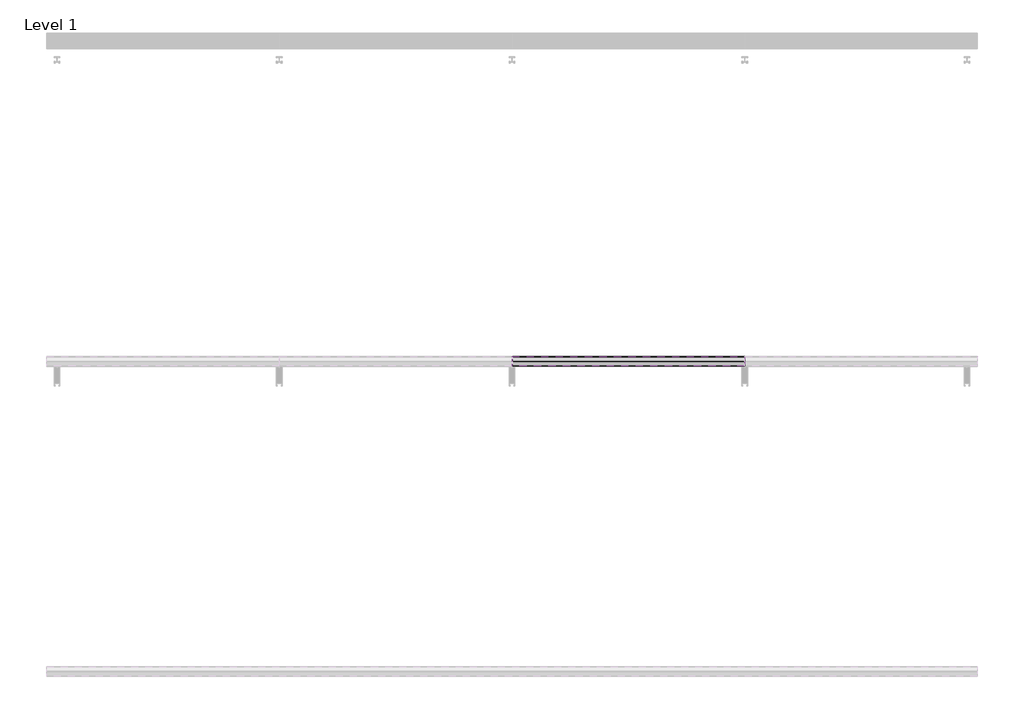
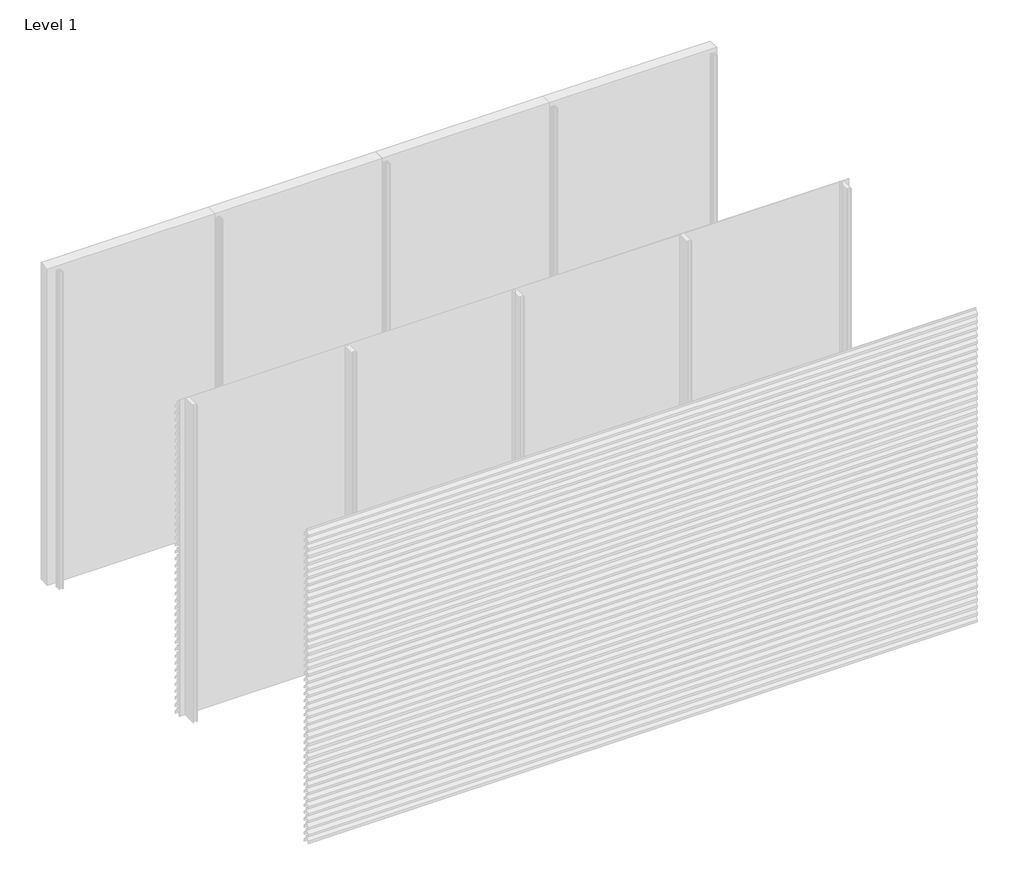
# One storey, part 8 of 35: 70 proxies.
"""IFC4 building model written with IfcOpenShell, lengths in millimetres."""

from ifc_helpers import new_model, si_unit, frame, origin, place, context, project, spatial, polyline, outline, extrude, element, save

model = new_model("IFC4")

# Units and contexts
model_context = context("Model", 3, world=origin())
ifc_project = project(units=[si_unit("LENGTHUNIT", "METRE", prefix="MILLI")], contexts=[model_context])

# Site, building, storey
site = spatial("IfcSite", under=ifc_project)
building = spatial("IfcBuilding", under=site)
storey = spatial("IfcBuildingStorey", under=building, Name="Level 1", Elevation=0.0)

# Proxies
placement = place(None, origin())
element("IfcBuildingElementProxy", 1, Name="Wall Sweeps", at=placement, inside=storey, context=model_context, shape_type="SweptSolid", body=[
    extrude(outline(polyline([(-47936.0, 474.0), (-47936.0, 454.0), (-47937.25, 454.0), (-47937.25, 473.4342979), (-47968.1138939, 506.531772), (-47996.7, 486.4392868), (-47996.7, 467.6629874), (-47998.0, 466.8506572), (-47998.0, 487.1145472), (-47968.537525, 507.823011), (-47968.537525, 528.0), (-47967.1772624, 528.0), (-47967.1772624, 507.4335207), (-47936.0, 474.0)])), frame((1500.0, 0.0, 0.0), z_axis=(1.0, 0.0, 0.0), x_axis=(0.0, 1.0, 0.0)), (0.0, 0.0, 1.0), 1500.0),
])
element("IfcBuildingElementProxy", 2, Name="Wall Sweeps", at=placement, inside=storey, context=model_context, shape_type="SweptSolid", body=[
    extrude(outline(polyline([(-47936.0, 408.0), (-47936.0, 388.0), (-47937.25, 388.0), (-47937.25, 407.4342979), (-47968.1138939, 440.531772), (-47996.7, 420.4392868), (-47996.7, 401.6629874), (-47998.0, 400.8506572), (-47998.0, 421.1145472), (-47968.537525, 441.823011), (-47968.537525, 462.0), (-47967.1772624, 462.0), (-47967.1772624, 441.4335207), (-47936.0, 408.0)])), frame((1500.0, 0.0, 0.0), z_axis=(1.0, 0.0, 0.0), x_axis=(0.0, 1.0, 0.0)), (0.0, 0.0, 1.0), 1500.0),
])
element("IfcBuildingElementProxy", 3, Name="Wall Sweeps", at=placement, inside=storey, context=model_context, shape_type="SweptSolid", body=[
    extrude(outline(polyline([(-47936.0, 342.0), (-47936.0, 322.0), (-47937.25, 322.0), (-47937.25, 341.4342979), (-47968.1138939, 374.531772), (-47996.7, 354.4392868), (-47996.7, 335.6629874), (-47998.0, 334.8506572), (-47998.0, 355.1145472), (-47968.537525, 375.823011), (-47968.537525, 396.0), (-47967.1772624, 396.0), (-47967.1772624, 375.4335207), (-47936.0, 342.0)])), frame((1500.0, 0.0, 0.0), z_axis=(1.0, 0.0, 0.0), x_axis=(0.0, 1.0, 0.0)), (0.0, 0.0, 1.0), 1500.0),
])
element("IfcBuildingElementProxy", 4, Name="Wall Sweeps", at=placement, inside=storey, context=model_context, shape_type="SweptSolid", body=[
    extrude(outline(polyline([(-47936.0, 276.0), (-47936.0, 256.0), (-47937.25, 256.0), (-47937.25, 275.4342979), (-47968.1138939, 308.531772), (-47996.7, 288.4392868), (-47996.7, 269.6629874), (-47998.0, 268.8506572), (-47998.0, 289.1145472), (-47968.537525, 309.823011), (-47968.537525, 330.0), (-47967.1772624, 330.0), (-47967.1772624, 309.4335207), (-47936.0, 276.0)])), frame((1500.0, 0.0, 0.0), z_axis=(1.0, 0.0, 0.0), x_axis=(0.0, 1.0, 0.0)), (0.0, 0.0, 1.0), 1500.0),
])
element("IfcBuildingElementProxy", 5, Name="Wall Sweeps", at=placement, inside=storey, context=model_context, shape_type="SweptSolid", body=[
    extrude(outline(polyline([(-47936.0, 210.0), (-47936.0, 190.0), (-47937.25, 190.0), (-47937.25, 209.4342979), (-47968.1138939, 242.531772), (-47996.7, 222.4392868), (-47996.7, 203.6629874), (-47998.0, 202.8506572), (-47998.0, 223.1145472), (-47968.537525, 243.823011), (-47968.537525, 264.0), (-47967.1772624, 264.0), (-47967.1772624, 243.4335207), (-47936.0, 210.0)])), frame((1500.0, 0.0, 0.0), z_axis=(1.0, 0.0, 0.0), x_axis=(0.0, 1.0, 0.0)), (0.0, 0.0, 1.0), 1500.0),
])
element("IfcBuildingElementProxy", 6, Name="Wall Sweeps", at=placement, inside=storey, context=model_context, shape_type="SweptSolid", body=[
    extrude(outline(polyline([(-47936.0, 144.0), (-47936.0, 124.0), (-47937.25, 124.0), (-47937.25, 143.4342979), (-47968.1138939, 176.531772), (-47996.7, 156.4392868), (-47996.7, 137.6629874), (-47998.0, 136.8506572), (-47998.0, 157.1145472), (-47968.537525, 177.823011), (-47968.537525, 198.0), (-47967.1772624, 198.0), (-47967.1772624, 177.4335207), (-47936.0, 144.0)])), frame((1500.0, 0.0, 0.0), z_axis=(1.0, 0.0, 0.0), x_axis=(0.0, 1.0, 0.0)), (0.0, 0.0, 1.0), 1500.0),
])
element("IfcBuildingElementProxy", 7, Name="Wall Sweeps", at=placement, inside=storey, context=model_context, shape_type="SweptSolid", body=[
    extrude(outline(polyline([(-47936.0, 78.0), (-47936.0, 58.0), (-47937.25, 58.0), (-47937.25, 77.4342979), (-47968.1138939, 110.531772), (-47996.7, 90.4392868), (-47996.7, 71.6629874), (-47998.0, 70.8506572), (-47998.0, 91.1145472), (-47968.537525, 111.823011), (-47968.537525, 132.0), (-47967.1772624, 132.0), (-47967.1772624, 111.4335207), (-47936.0, 78.0)])), frame((1500.0, 0.0, 0.0), z_axis=(1.0, 0.0, 0.0), x_axis=(0.0, 1.0, 0.0)), (0.0, 0.0, 1.0), 1500.0),
])
element("IfcBuildingElementProxy", 8, Name="Wall Sweeps", at=placement, inside=storey, context=model_context, shape_type="SweptSolid", body=[
    extrude(outline(polyline([(-47936.0, 12.0), (-47936.0, -8.0), (-47937.25, -8.0), (-47937.25, 11.4342979), (-47968.1138939, 44.531772), (-47996.7, 24.4392868), (-47996.7, 5.6629874), (-47998.0, 4.8506572), (-47998.0, 25.1145472), (-47968.537525, 45.823011), (-47968.537525, 66.0), (-47967.1772624, 66.0), (-47967.1772624, 45.4335207), (-47936.0, 12.0)])), frame((1500.0, 0.0, 0.0), z_axis=(1.0, 0.0, 0.0), x_axis=(0.0, 1.0, 0.0)), (0.0, 0.0, 1.0), 1500.0),
])
element("IfcBuildingElementProxy", 9, Name="Wall Sweeps", at=placement, inside=storey, context=model_context, shape_type="SweptSolid", body=[
    extrude(outline(polyline([(-47936.0, 2916.0), (-47936.0, 2896.0), (-47937.25, 2896.0), (-47937.25, 2915.4342979), (-47968.1138939, 2948.531772), (-47996.7, 2928.4392868), (-47996.7, 2909.6629874), (-47998.0, 2908.8506572), (-47998.0, 2929.1145472), (-47968.537525, 2949.823011), (-47968.537525, 2970.0), (-47967.1772624, 2970.0), (-47967.1772624, 2949.4335207), (-47936.0, 2916.0)])), frame((3000.0, 0.0, 0.0), z_axis=(1.0, 0.0, 0.0), x_axis=(0.0, 1.0, 0.0)), (0.0, 0.0, 1.0), 1500.0),
])
element("IfcBuildingElementProxy", 10, Name="Wall Sweeps", at=placement, inside=storey, context=model_context, shape_type="SweptSolid", body=[
    extrude(outline(polyline([(-47936.0, 2850.0), (-47936.0, 2830.0), (-47937.25, 2830.0), (-47937.25, 2849.4342979), (-47968.1138939, 2882.531772), (-47996.7, 2862.4392868), (-47996.7, 2843.6629874), (-47998.0, 2842.8506572), (-47998.0, 2863.1145472), (-47968.537525, 2883.823011), (-47968.537525, 2904.0), (-47967.1772624, 2904.0), (-47967.1772624, 2883.4335207), (-47936.0, 2850.0)])), frame((3000.0, 0.0, 0.0), z_axis=(1.0, 0.0, 0.0), x_axis=(0.0, 1.0, 0.0)), (0.0, 0.0, 1.0), 1500.0),
])
element("IfcBuildingElementProxy", 11, Name="Wall Sweeps", at=placement, inside=storey, context=model_context, shape_type="SweptSolid", body=[
    extrude(outline(polyline([(-47936.0, 2784.0), (-47936.0, 2764.0), (-47937.25, 2764.0), (-47937.25, 2783.4342979), (-47968.1138939, 2816.531772), (-47996.7, 2796.4392868), (-47996.7, 2777.6629874), (-47998.0, 2776.8506572), (-47998.0, 2797.1145472), (-47968.537525, 2817.823011), (-47968.537525, 2838.0), (-47967.1772624, 2838.0), (-47967.1772624, 2817.4335207), (-47936.0, 2784.0)])), frame((3000.0, 0.0, 0.0), z_axis=(1.0, 0.0, 0.0), x_axis=(0.0, 1.0, 0.0)), (0.0, 0.0, 1.0), 1500.0),
])
element("IfcBuildingElementProxy", 12, Name="Wall Sweeps", at=placement, inside=storey, context=model_context, shape_type="SweptSolid", body=[
    extrude(outline(polyline([(-47936.0, 2718.0), (-47936.0, 2698.0), (-47937.25, 2698.0), (-47937.25, 2717.4342979), (-47968.1138939, 2750.531772), (-47996.7, 2730.4392868), (-47996.7, 2711.6629874), (-47998.0, 2710.8506572), (-47998.0, 2731.1145472), (-47968.537525, 2751.823011), (-47968.537525, 2772.0), (-47967.1772624, 2772.0), (-47967.1772624, 2751.4335207), (-47936.0, 2718.0)])), frame((3000.0, 0.0, 0.0), z_axis=(1.0, 0.0, 0.0), x_axis=(0.0, 1.0, 0.0)), (0.0, 0.0, 1.0), 1500.0),
])
element("IfcBuildingElementProxy", 13, Name="Wall Sweeps", at=placement, inside=storey, context=model_context, shape_type="SweptSolid", body=[
    extrude(outline(polyline([(-47936.0, 2652.0), (-47936.0, 2632.0), (-47937.25, 2632.0), (-47937.25, 2651.4342979), (-47968.1138939, 2684.531772), (-47996.7, 2664.4392868), (-47996.7, 2645.6629874), (-47998.0, 2644.8506572), (-47998.0, 2665.1145472), (-47968.537525, 2685.823011), (-47968.537525, 2706.0), (-47967.1772624, 2706.0), (-47967.1772624, 2685.4335207), (-47936.0, 2652.0)])), frame((3000.0, 0.0, 0.0), z_axis=(1.0, 0.0, 0.0), x_axis=(0.0, 1.0, 0.0)), (0.0, 0.0, 1.0), 1500.0),
])
element("IfcBuildingElementProxy", 14, Name="Wall Sweeps", at=placement, inside=storey, context=model_context, shape_type="SweptSolid", body=[
    extrude(outline(polyline([(-47936.0, 2586.0), (-47936.0, 2566.0), (-47937.25, 2566.0), (-47937.25, 2585.4342979), (-47968.1138939, 2618.531772), (-47996.7, 2598.4392868), (-47996.7, 2579.6629874), (-47998.0, 2578.8506572), (-47998.0, 2599.1145472), (-47968.537525, 2619.823011), (-47968.537525, 2640.0), (-47967.1772624, 2640.0), (-47967.1772624, 2619.4335207), (-47936.0, 2586.0)])), frame((3000.0, 0.0, 0.0), z_axis=(1.0, 0.0, 0.0), x_axis=(0.0, 1.0, 0.0)), (0.0, 0.0, 1.0), 1500.0),
])
element("IfcBuildingElementProxy", 15, Name="Wall Sweeps", at=placement, inside=storey, context=model_context, shape_type="SweptSolid", body=[
    extrude(outline(polyline([(-47936.0, 2520.0), (-47936.0, 2500.0), (-47937.25, 2500.0), (-47937.25, 2519.4342979), (-47968.1138939, 2552.531772), (-47996.7, 2532.4392868), (-47996.7, 2513.6629874), (-47998.0, 2512.8506572), (-47998.0, 2533.1145472), (-47968.537525, 2553.823011), (-47968.537525, 2574.0), (-47967.1772624, 2574.0), (-47967.1772624, 2553.4335207), (-47936.0, 2520.0)])), frame((3000.0, 0.0, 0.0), z_axis=(1.0, 0.0, 0.0), x_axis=(0.0, 1.0, 0.0)), (0.0, 0.0, 1.0), 1500.0),
])
element("IfcBuildingElementProxy", 16, Name="Wall Sweeps", at=placement, inside=storey, context=model_context, shape_type="SweptSolid", body=[
    extrude(outline(polyline([(-47936.0, 2454.0), (-47936.0, 2434.0), (-47937.25, 2434.0), (-47937.25, 2453.4342979), (-47968.1138939, 2486.531772), (-47996.7, 2466.4392868), (-47996.7, 2447.6629874), (-47998.0, 2446.8506572), (-47998.0, 2467.1145472), (-47968.537525, 2487.823011), (-47968.537525, 2508.0), (-47967.1772624, 2508.0), (-47967.1772624, 2487.4335207), (-47936.0, 2454.0)])), frame((3000.0, 0.0, 0.0), z_axis=(1.0, 0.0, 0.0), x_axis=(0.0, 1.0, 0.0)), (0.0, 0.0, 1.0), 1500.0),
])
element("IfcBuildingElementProxy", 17, Name="Wall Sweeps", at=placement, inside=storey, context=model_context, shape_type="SweptSolid", body=[
    extrude(outline(polyline([(-47936.0, 2388.0), (-47936.0, 2368.0), (-47937.25, 2368.0), (-47937.25, 2387.4342979), (-47968.1138939, 2420.531772), (-47996.7, 2400.4392868), (-47996.7, 2381.6629874), (-47998.0, 2380.8506572), (-47998.0, 2401.1145472), (-47968.537525, 2421.823011), (-47968.537525, 2442.0), (-47967.1772624, 2442.0), (-47967.1772624, 2421.4335207), (-47936.0, 2388.0)])), frame((3000.0, 0.0, 0.0), z_axis=(1.0, 0.0, 0.0), x_axis=(0.0, 1.0, 0.0)), (0.0, 0.0, 1.0), 1500.0),
])
element("IfcBuildingElementProxy", 18, Name="Wall Sweeps", at=placement, inside=storey, context=model_context, shape_type="SweptSolid", body=[
    extrude(outline(polyline([(-47936.0, 2322.0), (-47936.0, 2302.0), (-47937.25, 2302.0), (-47937.25, 2321.4342979), (-47968.1138939, 2354.531772), (-47996.7, 2334.4392868), (-47996.7, 2315.6629874), (-47998.0, 2314.8506572), (-47998.0, 2335.1145472), (-47968.537525, 2355.823011), (-47968.537525, 2376.0), (-47967.1772624, 2376.0), (-47967.1772624, 2355.4335207), (-47936.0, 2322.0)])), frame((3000.0, 0.0, 0.0), z_axis=(1.0, 0.0, 0.0), x_axis=(0.0, 1.0, 0.0)), (0.0, 0.0, 1.0), 1500.0),
])
element("IfcBuildingElementProxy", 19, Name="Wall Sweeps", at=placement, inside=storey, context=model_context, shape_type="SweptSolid", body=[
    extrude(outline(polyline([(-47936.0, 2256.0), (-47936.0, 2236.0), (-47937.25, 2236.0), (-47937.25, 2255.4342979), (-47968.1138939, 2288.531772), (-47996.7, 2268.4392868), (-47996.7, 2249.6629874), (-47998.0, 2248.8506572), (-47998.0, 2269.1145472), (-47968.537525, 2289.823011), (-47968.537525, 2310.0), (-47967.1772624, 2310.0), (-47967.1772624, 2289.4335207), (-47936.0, 2256.0)])), frame((3000.0, 0.0, 0.0), z_axis=(1.0, 0.0, 0.0), x_axis=(0.0, 1.0, 0.0)), (0.0, 0.0, 1.0), 1500.0),
])
element("IfcBuildingElementProxy", 20, Name="Wall Sweeps", at=placement, inside=storey, context=model_context, shape_type="SweptSolid", body=[
    extrude(outline(polyline([(-47936.0, 2190.0), (-47936.0, 2170.0), (-47937.25, 2170.0), (-47937.25, 2189.4342979), (-47968.1138939, 2222.531772), (-47996.7, 2202.4392868), (-47996.7, 2183.6629874), (-47998.0, 2182.8506572), (-47998.0, 2203.1145472), (-47968.537525, 2223.823011), (-47968.537525, 2244.0), (-47967.1772624, 2244.0), (-47967.1772624, 2223.4335207), (-47936.0, 2190.0)])), frame((3000.0, 0.0, 0.0), z_axis=(1.0, 0.0, 0.0), x_axis=(0.0, 1.0, 0.0)), (0.0, 0.0, 1.0), 1500.0),
])
element("IfcBuildingElementProxy", 21, Name="Wall Sweeps", at=placement, inside=storey, context=model_context, shape_type="SweptSolid", body=[
    extrude(outline(polyline([(-47936.0, 2124.0), (-47936.0, 2104.0), (-47937.25, 2104.0), (-47937.25, 2123.4342979), (-47968.1138939, 2156.531772), (-47996.7, 2136.4392868), (-47996.7, 2117.6629874), (-47998.0, 2116.8506572), (-47998.0, 2137.1145472), (-47968.537525, 2157.823011), (-47968.537525, 2178.0), (-47967.1772624, 2178.0), (-47967.1772624, 2157.4335207), (-47936.0, 2124.0)])), frame((3000.0, 0.0, 0.0), z_axis=(1.0, 0.0, 0.0), x_axis=(0.0, 1.0, 0.0)), (0.0, 0.0, 1.0), 1500.0),
])
element("IfcBuildingElementProxy", 22, Name="Wall Sweeps", at=placement, inside=storey, context=model_context, shape_type="SweptSolid", body=[
    extrude(outline(polyline([(-47936.0, 2058.0), (-47936.0, 2038.0), (-47937.25, 2038.0), (-47937.25, 2057.4342979), (-47968.1138939, 2090.531772), (-47996.7, 2070.4392868), (-47996.7, 2051.6629874), (-47998.0, 2050.8506572), (-47998.0, 2071.1145472), (-47968.537525, 2091.823011), (-47968.537525, 2112.0), (-47967.1772624, 2112.0), (-47967.1772624, 2091.4335207), (-47936.0, 2058.0)])), frame((3000.0, 0.0, 0.0), z_axis=(1.0, 0.0, 0.0), x_axis=(0.0, 1.0, 0.0)), (0.0, 0.0, 1.0), 1500.0),
])
element("IfcBuildingElementProxy", 23, Name="Wall Sweeps", at=placement, inside=storey, context=model_context, shape_type="SweptSolid", body=[
    extrude(outline(polyline([(-47936.0, 1992.0), (-47936.0, 1972.0), (-47937.25, 1972.0), (-47937.25, 1991.4342979), (-47968.1138939, 2024.531772), (-47996.7, 2004.4392868), (-47996.7, 1985.6629874), (-47998.0, 1984.8506572), (-47998.0, 2005.1145472), (-47968.537525, 2025.823011), (-47968.537525, 2046.0), (-47967.1772624, 2046.0), (-47967.1772624, 2025.4335207), (-47936.0, 1992.0)])), frame((3000.0, 0.0, 0.0), z_axis=(1.0, 0.0, 0.0), x_axis=(0.0, 1.0, 0.0)), (0.0, 0.0, 1.0), 1500.0),
])
element("IfcBuildingElementProxy", 24, Name="Wall Sweeps", at=placement, inside=storey, context=model_context, shape_type="SweptSolid", body=[
    extrude(outline(polyline([(-47936.0, 1926.0), (-47936.0, 1906.0), (-47937.25, 1906.0), (-47937.25, 1925.4342979), (-47968.1138939, 1958.531772), (-47996.7, 1938.4392868), (-47996.7, 1919.6629874), (-47998.0, 1918.8506572), (-47998.0, 1939.1145472), (-47968.537525, 1959.823011), (-47968.537525, 1980.0), (-47967.1772624, 1980.0), (-47967.1772624, 1959.4335207), (-47936.0, 1926.0)])), frame((3000.0, 0.0, 0.0), z_axis=(1.0, 0.0, 0.0), x_axis=(0.0, 1.0, 0.0)), (0.0, 0.0, 1.0), 1500.0),
])
element("IfcBuildingElementProxy", 25, Name="Wall Sweeps", at=placement, inside=storey, context=model_context, shape_type="SweptSolid", body=[
    extrude(outline(polyline([(-47936.0, 1860.0), (-47936.0, 1840.0), (-47937.25, 1840.0), (-47937.25, 1859.4342979), (-47968.1138939, 1892.531772), (-47996.7, 1872.4392868), (-47996.7, 1853.6629874), (-47998.0, 1852.8506572), (-47998.0, 1873.1145472), (-47968.537525, 1893.823011), (-47968.537525, 1914.0), (-47967.1772624, 1914.0), (-47967.1772624, 1893.4335207), (-47936.0, 1860.0)])), frame((3000.0, 0.0, 0.0), z_axis=(1.0, 0.0, 0.0), x_axis=(0.0, 1.0, 0.0)), (0.0, 0.0, 1.0), 1500.0),
])
element("IfcBuildingElementProxy", 26, Name="Wall Sweeps", at=placement, inside=storey, context=model_context, shape_type="SweptSolid", body=[
    extrude(outline(polyline([(-47936.0, 1794.0), (-47936.0, 1774.0), (-47937.25, 1774.0), (-47937.25, 1793.4342979), (-47968.1138939, 1826.531772), (-47996.7, 1806.4392868), (-47996.7, 1787.6629874), (-47998.0, 1786.8506572), (-47998.0, 1807.1145472), (-47968.537525, 1827.823011), (-47968.537525, 1848.0), (-47967.1772624, 1848.0), (-47967.1772624, 1827.4335207), (-47936.0, 1794.0)])), frame((3000.0, 0.0, 0.0), z_axis=(1.0, 0.0, 0.0), x_axis=(0.0, 1.0, 0.0)), (0.0, 0.0, 1.0), 1500.0),
])
element("IfcBuildingElementProxy", 27, Name="Wall Sweeps", at=placement, inside=storey, context=model_context, shape_type="SweptSolid", body=[
    extrude(outline(polyline([(-47936.0, 1728.0), (-47936.0, 1708.0), (-47937.25, 1708.0), (-47937.25, 1727.4342979), (-47968.1138939, 1760.531772), (-47996.7, 1740.4392868), (-47996.7, 1721.6629874), (-47998.0, 1720.8506572), (-47998.0, 1741.1145472), (-47968.537525, 1761.823011), (-47968.537525, 1782.0), (-47967.1772624, 1782.0), (-47967.1772624, 1761.4335207), (-47936.0, 1728.0)])), frame((3000.0, 0.0, 0.0), z_axis=(1.0, 0.0, 0.0), x_axis=(0.0, 1.0, 0.0)), (0.0, 0.0, 1.0), 1500.0),
])
element("IfcBuildingElementProxy", 28, Name="Wall Sweeps", at=placement, inside=storey, context=model_context, shape_type="SweptSolid", body=[
    extrude(outline(polyline([(-47936.0, 1662.0), (-47936.0, 1642.0), (-47937.25, 1642.0), (-47937.25, 1661.4342979), (-47968.1138939, 1694.531772), (-47996.7, 1674.4392868), (-47996.7, 1655.6629874), (-47998.0, 1654.8506572), (-47998.0, 1675.1145472), (-47968.537525, 1695.823011), (-47968.537525, 1716.0), (-47967.1772624, 1716.0), (-47967.1772624, 1695.4335207), (-47936.0, 1662.0)])), frame((3000.0, 0.0, 0.0), z_axis=(1.0, 0.0, 0.0), x_axis=(0.0, 1.0, 0.0)), (0.0, 0.0, 1.0), 1500.0),
])
element("IfcBuildingElementProxy", 29, Name="Wall Sweeps", at=placement, inside=storey, context=model_context, shape_type="SweptSolid", body=[
    extrude(outline(polyline([(-47936.0, 1596.0), (-47936.0, 1576.0), (-47937.25, 1576.0), (-47937.25, 1595.4342979), (-47968.1138939, 1628.531772), (-47996.7, 1608.4392868), (-47996.7, 1589.6629874), (-47998.0, 1588.8506572), (-47998.0, 1609.1145472), (-47968.537525, 1629.823011), (-47968.537525, 1650.0), (-47967.1772624, 1650.0), (-47967.1772624, 1629.4335207), (-47936.0, 1596.0)])), frame((3000.0, 0.0, 0.0), z_axis=(1.0, 0.0, 0.0), x_axis=(0.0, 1.0, 0.0)), (0.0, 0.0, 1.0), 1500.0),
])
element("IfcBuildingElementProxy", 30, Name="Wall Sweeps", at=placement, inside=storey, context=model_context, shape_type="SweptSolid", body=[
    extrude(outline(polyline([(-47936.0, 1530.0), (-47936.0, 1510.0), (-47937.25, 1510.0), (-47937.25, 1529.4342979), (-47968.1138939, 1562.531772), (-47996.7, 1542.4392868), (-47996.7, 1523.6629874), (-47998.0, 1522.8506572), (-47998.0, 1543.1145472), (-47968.537525, 1563.823011), (-47968.537525, 1584.0), (-47967.1772624, 1584.0), (-47967.1772624, 1563.4335207), (-47936.0, 1530.0)])), frame((3000.0, 0.0, 0.0), z_axis=(1.0, 0.0, 0.0), x_axis=(0.0, 1.0, 0.0)), (0.0, 0.0, 1.0), 1500.0),
])
element("IfcBuildingElementProxy", 31, Name="Wall Sweeps", at=placement, inside=storey, context=model_context, shape_type="SweptSolid", body=[
    extrude(outline(polyline([(-47936.0, 1464.0), (-47936.0, 1444.0), (-47937.25, 1444.0), (-47937.25, 1463.4342979), (-47968.1138939, 1496.531772), (-47996.7, 1476.4392868), (-47996.7, 1457.6629874), (-47998.0, 1456.8506572), (-47998.0, 1477.1145472), (-47968.537525, 1497.823011), (-47968.537525, 1518.0), (-47967.1772624, 1518.0), (-47967.1772624, 1497.4335207), (-47936.0, 1464.0)])), frame((3000.0, 0.0, 0.0), z_axis=(1.0, 0.0, 0.0), x_axis=(0.0, 1.0, 0.0)), (0.0, 0.0, 1.0), 1500.0),
])
element("IfcBuildingElementProxy", 32, Name="Wall Sweeps", at=placement, inside=storey, context=model_context, shape_type="SweptSolid", body=[
    extrude(outline(polyline([(-47936.0, 1398.0), (-47936.0, 1378.0), (-47937.25, 1378.0), (-47937.25, 1397.4342979), (-47968.1138939, 1430.531772), (-47996.7, 1410.4392868), (-47996.7, 1391.6629874), (-47998.0, 1390.8506572), (-47998.0, 1411.1145472), (-47968.537525, 1431.823011), (-47968.537525, 1452.0), (-47967.1772624, 1452.0), (-47967.1772624, 1431.4335207), (-47936.0, 1398.0)])), frame((3000.0, 0.0, 0.0), z_axis=(1.0, 0.0, 0.0), x_axis=(0.0, 1.0, 0.0)), (0.0, 0.0, 1.0), 1500.0),
])
element("IfcBuildingElementProxy", 33, Name="Wall Sweeps", at=placement, inside=storey, context=model_context, shape_type="SweptSolid", body=[
    extrude(outline(polyline([(-47936.0, 1332.0), (-47936.0, 1312.0), (-47937.25, 1312.0), (-47937.25, 1331.4342979), (-47968.1138939, 1364.531772), (-47996.7, 1344.4392868), (-47996.7, 1325.6629874), (-47998.0, 1324.8506572), (-47998.0, 1345.1145472), (-47968.537525, 1365.823011), (-47968.537525, 1386.0), (-47967.1772624, 1386.0), (-47967.1772624, 1365.4335207), (-47936.0, 1332.0)])), frame((3000.0, 0.0, 0.0), z_axis=(1.0, 0.0, 0.0), x_axis=(0.0, 1.0, 0.0)), (0.0, 0.0, 1.0), 1500.0),
])
element("IfcBuildingElementProxy", 34, Name="Wall Sweeps", at=placement, inside=storey, context=model_context, shape_type="SweptSolid", body=[
    extrude(outline(polyline([(-47936.0, 1266.0), (-47936.0, 1246.0), (-47937.25, 1246.0), (-47937.25, 1265.4342979), (-47968.1138939, 1298.531772), (-47996.7, 1278.4392868), (-47996.7, 1259.6629874), (-47998.0, 1258.8506572), (-47998.0, 1279.1145472), (-47968.537525, 1299.823011), (-47968.537525, 1320.0), (-47967.1772624, 1320.0), (-47967.1772624, 1299.4335207), (-47936.0, 1266.0)])), frame((3000.0, 0.0, 0.0), z_axis=(1.0, 0.0, 0.0), x_axis=(0.0, 1.0, 0.0)), (0.0, 0.0, 1.0), 1500.0),
])
element("IfcBuildingElementProxy", 35, Name="Wall Sweeps", at=placement, inside=storey, context=model_context, shape_type="SweptSolid", body=[
    extrude(outline(polyline([(-47936.0, 1200.0), (-47936.0, 1180.0), (-47937.25, 1180.0), (-47937.25, 1199.4342979), (-47968.1138939, 1232.531772), (-47996.7, 1212.4392868), (-47996.7, 1193.6629874), (-47998.0, 1192.8506572), (-47998.0, 1213.1145472), (-47968.537525, 1233.823011), (-47968.537525, 1254.0), (-47967.1772624, 1254.0), (-47967.1772624, 1233.4335207), (-47936.0, 1200.0)])), frame((3000.0, 0.0, 0.0), z_axis=(1.0, 0.0, 0.0), x_axis=(0.0, 1.0, 0.0)), (0.0, 0.0, 1.0), 1500.0),
])
element("IfcBuildingElementProxy", 36, Name="Wall Sweeps", at=placement, inside=storey, context=model_context, shape_type="SweptSolid", body=[
    extrude(outline(polyline([(-47936.0, 1134.0), (-47936.0, 1114.0), (-47937.25, 1114.0), (-47937.25, 1133.4342979), (-47968.1138939, 1166.531772), (-47996.7, 1146.4392868), (-47996.7, 1127.6629874), (-47998.0, 1126.8506572), (-47998.0, 1147.1145472), (-47968.537525, 1167.823011), (-47968.537525, 1188.0), (-47967.1772624, 1188.0), (-47967.1772624, 1167.4335207), (-47936.0, 1134.0)])), frame((3000.0, 0.0, 0.0), z_axis=(1.0, 0.0, 0.0), x_axis=(0.0, 1.0, 0.0)), (0.0, 0.0, 1.0), 1500.0),
])
element("IfcBuildingElementProxy", 37, Name="Wall Sweeps", at=placement, inside=storey, context=model_context, shape_type="SweptSolid", body=[
    extrude(outline(polyline([(-47936.0, 1068.0), (-47936.0, 1048.0), (-47937.25, 1048.0), (-47937.25, 1067.4342979), (-47968.1138939, 1100.531772), (-47996.7, 1080.4392868), (-47996.7, 1061.6629874), (-47998.0, 1060.8506572), (-47998.0, 1081.1145472), (-47968.537525, 1101.823011), (-47968.537525, 1122.0), (-47967.1772624, 1122.0), (-47967.1772624, 1101.4335207), (-47936.0, 1068.0)])), frame((3000.0, 0.0, 0.0), z_axis=(1.0, 0.0, 0.0), x_axis=(0.0, 1.0, 0.0)), (0.0, 0.0, 1.0), 1500.0),
])
element("IfcBuildingElementProxy", 38, Name="Wall Sweeps", at=placement, inside=storey, context=model_context, shape_type="SweptSolid", body=[
    extrude(outline(polyline([(-47936.0, 1002.0), (-47936.0, 982.0), (-47937.25, 982.0), (-47937.25, 1001.4342979), (-47968.1138939, 1034.531772), (-47996.7, 1014.4392868), (-47996.7, 995.6629874), (-47998.0, 994.8506572), (-47998.0, 1015.1145472), (-47968.537525, 1035.823011), (-47968.537525, 1056.0), (-47967.1772624, 1056.0), (-47967.1772624, 1035.4335207), (-47936.0, 1002.0)])), frame((3000.0, 0.0, 0.0), z_axis=(1.0, 0.0, 0.0), x_axis=(0.0, 1.0, 0.0)), (0.0, 0.0, 1.0), 1500.0),
])
element("IfcBuildingElementProxy", 39, Name="Wall Sweeps", at=placement, inside=storey, context=model_context, shape_type="SweptSolid", body=[
    extrude(outline(polyline([(-47936.0, 936.0), (-47936.0, 916.0), (-47937.25, 916.0), (-47937.25, 935.4342979), (-47968.1138939, 968.531772), (-47996.7, 948.4392868), (-47996.7, 929.6629874), (-47998.0, 928.8506572), (-47998.0, 949.1145472), (-47968.537525, 969.823011), (-47968.537525, 990.0), (-47967.1772624, 990.0), (-47967.1772624, 969.4335207), (-47936.0, 936.0)])), frame((3000.0, 0.0, 0.0), z_axis=(1.0, 0.0, 0.0), x_axis=(0.0, 1.0, 0.0)), (0.0, 0.0, 1.0), 1500.0),
])
element("IfcBuildingElementProxy", 40, Name="Wall Sweeps", at=placement, inside=storey, context=model_context, shape_type="SweptSolid", body=[
    extrude(outline(polyline([(-47936.0, 870.0), (-47936.0, 850.0), (-47937.25, 850.0), (-47937.25, 869.4342979), (-47968.1138939, 902.531772), (-47996.7, 882.4392868), (-47996.7, 863.6629874), (-47998.0, 862.8506572), (-47998.0, 883.1145472), (-47968.537525, 903.823011), (-47968.537525, 924.0), (-47967.1772624, 924.0), (-47967.1772624, 903.4335207), (-47936.0, 870.0)])), frame((3000.0, 0.0, 0.0), z_axis=(1.0, 0.0, 0.0), x_axis=(0.0, 1.0, 0.0)), (0.0, 0.0, 1.0), 1500.0),
])
element("IfcBuildingElementProxy", 41, Name="Wall Sweeps", at=placement, inside=storey, context=model_context, shape_type="SweptSolid", body=[
    extrude(outline(polyline([(-47936.0, 804.0), (-47936.0, 784.0), (-47937.25, 784.0), (-47937.25, 803.4342979), (-47968.1138939, 836.531772), (-47996.7, 816.4392868), (-47996.7, 797.6629874), (-47998.0, 796.8506572), (-47998.0, 817.1145472), (-47968.537525, 837.823011), (-47968.537525, 858.0), (-47967.1772624, 858.0), (-47967.1772624, 837.4335207), (-47936.0, 804.0)])), frame((3000.0, 0.0, 0.0), z_axis=(1.0, 0.0, 0.0), x_axis=(0.0, 1.0, 0.0)), (0.0, 0.0, 1.0), 1500.0),
])
element("IfcBuildingElementProxy", 42, Name="Wall Sweeps", at=placement, inside=storey, context=model_context, shape_type="SweptSolid", body=[
    extrude(outline(polyline([(-47936.0, 738.0), (-47936.0, 718.0), (-47937.25, 718.0), (-47937.25, 737.4342979), (-47968.1138939, 770.531772), (-47996.7, 750.4392868), (-47996.7, 731.6629874), (-47998.0, 730.8506572), (-47998.0, 751.1145472), (-47968.537525, 771.823011), (-47968.537525, 792.0), (-47967.1772624, 792.0), (-47967.1772624, 771.4335207), (-47936.0, 738.0)])), frame((3000.0, 0.0, 0.0), z_axis=(1.0, 0.0, 0.0), x_axis=(0.0, 1.0, 0.0)), (0.0, 0.0, 1.0), 1500.0),
])
element("IfcBuildingElementProxy", 43, Name="Wall Sweeps", at=placement, inside=storey, context=model_context, shape_type="SweptSolid", body=[
    extrude(outline(polyline([(-47936.0, 672.0), (-47936.0, 652.0), (-47937.25, 652.0), (-47937.25, 671.4342979), (-47968.1138939, 704.531772), (-47996.7, 684.4392868), (-47996.7, 665.6629874), (-47998.0, 664.8506572), (-47998.0, 685.1145472), (-47968.537525, 705.823011), (-47968.537525, 726.0), (-47967.1772624, 726.0), (-47967.1772624, 705.4335207), (-47936.0, 672.0)])), frame((3000.0, 0.0, 0.0), z_axis=(1.0, 0.0, 0.0), x_axis=(0.0, 1.0, 0.0)), (0.0, 0.0, 1.0), 1500.0),
])
element("IfcBuildingElementProxy", 44, Name="Wall Sweeps", at=placement, inside=storey, context=model_context, shape_type="SweptSolid", body=[
    extrude(outline(polyline([(-47936.0, 606.0), (-47936.0, 586.0), (-47937.25, 586.0), (-47937.25, 605.4342979), (-47968.1138939, 638.531772), (-47996.7, 618.4392868), (-47996.7, 599.6629874), (-47998.0, 598.8506572), (-47998.0, 619.1145472), (-47968.537525, 639.823011), (-47968.537525, 660.0), (-47967.1772624, 660.0), (-47967.1772624, 639.4335207), (-47936.0, 606.0)])), frame((3000.0, 0.0, 0.0), z_axis=(1.0, 0.0, 0.0), x_axis=(0.0, 1.0, 0.0)), (0.0, 0.0, 1.0), 1500.0),
])
element("IfcBuildingElementProxy", 45, Name="Wall Sweeps", at=placement, inside=storey, context=model_context, shape_type="SweptSolid", body=[
    extrude(outline(polyline([(-47936.0, 540.0), (-47936.0, 520.0), (-47937.25, 520.0), (-47937.25, 539.4342979), (-47968.1138939, 572.531772), (-47996.7, 552.4392868), (-47996.7, 533.6629874), (-47998.0, 532.8506572), (-47998.0, 553.1145472), (-47968.537525, 573.823011), (-47968.537525, 594.0), (-47967.1772624, 594.0), (-47967.1772624, 573.4335207), (-47936.0, 540.0)])), frame((3000.0, 0.0, 0.0), z_axis=(1.0, 0.0, 0.0), x_axis=(0.0, 1.0, 0.0)), (0.0, 0.0, 1.0), 1500.0),
])
element("IfcBuildingElementProxy", 46, Name="Wall Sweeps", at=placement, inside=storey, context=model_context, shape_type="SweptSolid", body=[
    extrude(outline(polyline([(-47936.0, 474.0), (-47936.0, 454.0), (-47937.25, 454.0), (-47937.25, 473.4342979), (-47968.1138939, 506.531772), (-47996.7, 486.4392868), (-47996.7, 467.6629874), (-47998.0, 466.8506572), (-47998.0, 487.1145472), (-47968.537525, 507.823011), (-47968.537525, 528.0), (-47967.1772624, 528.0), (-47967.1772624, 507.4335207), (-47936.0, 474.0)])), frame((3000.0, 0.0, 0.0), z_axis=(1.0, 0.0, 0.0), x_axis=(0.0, 1.0, 0.0)), (0.0, 0.0, 1.0), 1500.0),
])
element("IfcBuildingElementProxy", 47, Name="Wall Sweeps", at=placement, inside=storey, context=model_context, shape_type="SweptSolid", body=[
    extrude(outline(polyline([(-47936.0, 408.0), (-47936.0, 388.0), (-47937.25, 388.0), (-47937.25, 407.4342979), (-47968.1138939, 440.531772), (-47996.7, 420.4392868), (-47996.7, 401.6629874), (-47998.0, 400.8506572), (-47998.0, 421.1145472), (-47968.537525, 441.823011), (-47968.537525, 462.0), (-47967.1772624, 462.0), (-47967.1772624, 441.4335207), (-47936.0, 408.0)])), frame((3000.0, 0.0, 0.0), z_axis=(1.0, 0.0, 0.0), x_axis=(0.0, 1.0, 0.0)), (0.0, 0.0, 1.0), 1500.0),
])
element("IfcBuildingElementProxy", 48, Name="Wall Sweeps", at=placement, inside=storey, context=model_context, shape_type="SweptSolid", body=[
    extrude(outline(polyline([(-47936.0, 342.0), (-47936.0, 322.0), (-47937.25, 322.0), (-47937.25, 341.4342979), (-47968.1138939, 374.531772), (-47996.7, 354.4392868), (-47996.7, 335.6629874), (-47998.0, 334.8506572), (-47998.0, 355.1145472), (-47968.537525, 375.823011), (-47968.537525, 396.0), (-47967.1772624, 396.0), (-47967.1772624, 375.4335207), (-47936.0, 342.0)])), frame((3000.0, 0.0, 0.0), z_axis=(1.0, 0.0, 0.0), x_axis=(0.0, 1.0, 0.0)), (0.0, 0.0, 1.0), 1500.0),
])
element("IfcBuildingElementProxy", 49, Name="Wall Sweeps", at=placement, inside=storey, context=model_context, shape_type="SweptSolid", body=[
    extrude(outline(polyline([(-47936.0, 276.0), (-47936.0, 256.0), (-47937.25, 256.0), (-47937.25, 275.4342979), (-47968.1138939, 308.531772), (-47996.7, 288.4392868), (-47996.7, 269.6629874), (-47998.0, 268.8506572), (-47998.0, 289.1145472), (-47968.537525, 309.823011), (-47968.537525, 330.0), (-47967.1772624, 330.0), (-47967.1772624, 309.4335207), (-47936.0, 276.0)])), frame((3000.0, 0.0, 0.0), z_axis=(1.0, 0.0, 0.0), x_axis=(0.0, 1.0, 0.0)), (0.0, 0.0, 1.0), 1500.0),
])
element("IfcBuildingElementProxy", 50, Name="Wall Sweeps", at=placement, inside=storey, context=model_context, shape_type="SweptSolid", body=[
    extrude(outline(polyline([(-47936.0, 210.0), (-47936.0, 190.0), (-47937.25, 190.0), (-47937.25, 209.4342979), (-47968.1138939, 242.531772), (-47996.7, 222.4392868), (-47996.7, 203.6629874), (-47998.0, 202.8506572), (-47998.0, 223.1145472), (-47968.537525, 243.823011), (-47968.537525, 264.0), (-47967.1772624, 264.0), (-47967.1772624, 243.4335207), (-47936.0, 210.0)])), frame((3000.0, 0.0, 0.0), z_axis=(1.0, 0.0, 0.0), x_axis=(0.0, 1.0, 0.0)), (0.0, 0.0, 1.0), 1500.0),
])
element("IfcBuildingElementProxy", 51, Name="Wall Sweeps", at=placement, inside=storey, context=model_context, shape_type="SweptSolid", body=[
    extrude(outline(polyline([(-47936.0, 144.0), (-47936.0, 124.0), (-47937.25, 124.0), (-47937.25, 143.4342979), (-47968.1138939, 176.531772), (-47996.7, 156.4392868), (-47996.7, 137.6629874), (-47998.0, 136.8506572), (-47998.0, 157.1145472), (-47968.537525, 177.823011), (-47968.537525, 198.0), (-47967.1772624, 198.0), (-47967.1772624, 177.4335207), (-47936.0, 144.0)])), frame((3000.0, 0.0, 0.0), z_axis=(1.0, 0.0, 0.0), x_axis=(0.0, 1.0, 0.0)), (0.0, 0.0, 1.0), 1500.0),
])
element("IfcBuildingElementProxy", 52, Name="Wall Sweeps", at=placement, inside=storey, context=model_context, shape_type="SweptSolid", body=[
    extrude(outline(polyline([(-47936.0, 78.0), (-47936.0, 58.0), (-47937.25, 58.0), (-47937.25, 77.4342979), (-47968.1138939, 110.531772), (-47996.7, 90.4392868), (-47996.7, 71.6629874), (-47998.0, 70.8506572), (-47998.0, 91.1145472), (-47968.537525, 111.823011), (-47968.537525, 132.0), (-47967.1772624, 132.0), (-47967.1772624, 111.4335207), (-47936.0, 78.0)])), frame((3000.0, 0.0, 0.0), z_axis=(1.0, 0.0, 0.0), x_axis=(0.0, 1.0, 0.0)), (0.0, 0.0, 1.0), 1500.0),
])
element("IfcBuildingElementProxy", 53, Name="Wall Sweeps", at=placement, inside=storey, context=model_context, shape_type="SweptSolid", body=[
    extrude(outline(polyline([(-47936.0, 12.0), (-47936.0, -8.0), (-47937.25, -8.0), (-47937.25, 11.4342979), (-47968.1138939, 44.531772), (-47996.7, 24.4392868), (-47996.7, 5.6629874), (-47998.0, 4.8506572), (-47998.0, 25.1145472), (-47968.537525, 45.823011), (-47968.537525, 66.0), (-47967.1772624, 66.0), (-47967.1772624, 45.4335207), (-47936.0, 12.0)])), frame((3000.0, 0.0, 0.0), z_axis=(1.0, 0.0, 0.0), x_axis=(0.0, 1.0, 0.0)), (0.0, 0.0, 1.0), 1500.0),
])
element("IfcBuildingElementProxy", 54, Name="Wall Sweeps", at=placement, inside=storey, context=model_context, shape_type="SweptSolid", body=[
    extrude(outline(polyline([(-47936.0, 2916.0), (-47936.0, 2896.0), (-47937.25, 2896.0), (-47937.25, 2915.4342979), (-47968.1138939, 2948.531772), (-47996.7, 2928.4392868), (-47996.7, 2909.6629874), (-47998.0, 2908.8506572), (-47998.0, 2929.1145472), (-47968.537525, 2949.823011), (-47968.537525, 2970.0), (-47967.1772624, 2970.0), (-47967.1772624, 2949.4335207), (-47936.0, 2916.0)])), frame((4500.0, 0.0, 0.0), z_axis=(1.0, 0.0, 0.0), x_axis=(0.0, 1.0, 0.0)), (0.0, 0.0, 1.0), 1500.0),
])
element("IfcBuildingElementProxy", 55, Name="Wall Sweeps", at=placement, inside=storey, context=model_context, shape_type="SweptSolid", body=[
    extrude(outline(polyline([(-47936.0, 2850.0), (-47936.0, 2830.0), (-47937.25, 2830.0), (-47937.25, 2849.4342979), (-47968.1138939, 2882.531772), (-47996.7, 2862.4392868), (-47996.7, 2843.6629874), (-47998.0, 2842.8506572), (-47998.0, 2863.1145472), (-47968.537525, 2883.823011), (-47968.537525, 2904.0), (-47967.1772624, 2904.0), (-47967.1772624, 2883.4335207), (-47936.0, 2850.0)])), frame((4500.0, 0.0, 0.0), z_axis=(1.0, 0.0, 0.0), x_axis=(0.0, 1.0, 0.0)), (0.0, 0.0, 1.0), 1500.0),
])
element("IfcBuildingElementProxy", 56, Name="Wall Sweeps", at=placement, inside=storey, context=model_context, shape_type="SweptSolid", body=[
    extrude(outline(polyline([(-47936.0, 2784.0), (-47936.0, 2764.0), (-47937.25, 2764.0), (-47937.25, 2783.4342979), (-47968.1138939, 2816.531772), (-47996.7, 2796.4392868), (-47996.7, 2777.6629874), (-47998.0, 2776.8506572), (-47998.0, 2797.1145472), (-47968.537525, 2817.823011), (-47968.537525, 2838.0), (-47967.1772624, 2838.0), (-47967.1772624, 2817.4335207), (-47936.0, 2784.0)])), frame((4500.0, 0.0, 0.0), z_axis=(1.0, 0.0, 0.0), x_axis=(0.0, 1.0, 0.0)), (0.0, 0.0, 1.0), 1500.0),
])
element("IfcBuildingElementProxy", 57, Name="Wall Sweeps", at=placement, inside=storey, context=model_context, shape_type="SweptSolid", body=[
    extrude(outline(polyline([(-47936.0, 2718.0), (-47936.0, 2698.0), (-47937.25, 2698.0), (-47937.25, 2717.4342979), (-47968.1138939, 2750.531772), (-47996.7, 2730.4392868), (-47996.7, 2711.6629874), (-47998.0, 2710.8506572), (-47998.0, 2731.1145472), (-47968.537525, 2751.823011), (-47968.537525, 2772.0), (-47967.1772624, 2772.0), (-47967.1772624, 2751.4335207), (-47936.0, 2718.0)])), frame((4500.0, 0.0, 0.0), z_axis=(1.0, 0.0, 0.0), x_axis=(0.0, 1.0, 0.0)), (0.0, 0.0, 1.0), 1500.0),
])
element("IfcBuildingElementProxy", 58, Name="Wall Sweeps", at=placement, inside=storey, context=model_context, shape_type="SweptSolid", body=[
    extrude(outline(polyline([(-47936.0, 2652.0), (-47936.0, 2632.0), (-47937.25, 2632.0), (-47937.25, 2651.4342979), (-47968.1138939, 2684.531772), (-47996.7, 2664.4392868), (-47996.7, 2645.6629874), (-47998.0, 2644.8506572), (-47998.0, 2665.1145472), (-47968.537525, 2685.823011), (-47968.537525, 2706.0), (-47967.1772624, 2706.0), (-47967.1772624, 2685.4335207), (-47936.0, 2652.0)])), frame((4500.0, 0.0, 0.0), z_axis=(1.0, 0.0, 0.0), x_axis=(0.0, 1.0, 0.0)), (0.0, 0.0, 1.0), 1500.0),
])
element("IfcBuildingElementProxy", 59, Name="Wall Sweeps", at=placement, inside=storey, context=model_context, shape_type="SweptSolid", body=[
    extrude(outline(polyline([(-47936.0, 2586.0), (-47936.0, 2566.0), (-47937.25, 2566.0), (-47937.25, 2585.4342979), (-47968.1138939, 2618.531772), (-47996.7, 2598.4392868), (-47996.7, 2579.6629874), (-47998.0, 2578.8506572), (-47998.0, 2599.1145472), (-47968.537525, 2619.823011), (-47968.537525, 2640.0), (-47967.1772624, 2640.0), (-47967.1772624, 2619.4335207), (-47936.0, 2586.0)])), frame((4500.0, 0.0, 0.0), z_axis=(1.0, 0.0, 0.0), x_axis=(0.0, 1.0, 0.0)), (0.0, 0.0, 1.0), 1500.0),
])
element("IfcBuildingElementProxy", 60, Name="Wall Sweeps", at=placement, inside=storey, context=model_context, shape_type="SweptSolid", body=[
    extrude(outline(polyline([(-47936.0, 2520.0), (-47936.0, 2500.0), (-47937.25, 2500.0), (-47937.25, 2519.4342979), (-47968.1138939, 2552.531772), (-47996.7, 2532.4392868), (-47996.7, 2513.6629874), (-47998.0, 2512.8506572), (-47998.0, 2533.1145472), (-47968.537525, 2553.823011), (-47968.537525, 2574.0), (-47967.1772624, 2574.0), (-47967.1772624, 2553.4335207), (-47936.0, 2520.0)])), frame((4500.0, 0.0, 0.0), z_axis=(1.0, 0.0, 0.0), x_axis=(0.0, 1.0, 0.0)), (0.0, 0.0, 1.0), 1500.0),
])
element("IfcBuildingElementProxy", 61, Name="Wall Sweeps", at=placement, inside=storey, context=model_context, shape_type="SweptSolid", body=[
    extrude(outline(polyline([(-47936.0, 2454.0), (-47936.0, 2434.0), (-47937.25, 2434.0), (-47937.25, 2453.4342979), (-47968.1138939, 2486.531772), (-47996.7, 2466.4392868), (-47996.7, 2447.6629874), (-47998.0, 2446.8506572), (-47998.0, 2467.1145472), (-47968.537525, 2487.823011), (-47968.537525, 2508.0), (-47967.1772624, 2508.0), (-47967.1772624, 2487.4335207), (-47936.0, 2454.0)])), frame((4500.0, 0.0, 0.0), z_axis=(1.0, 0.0, 0.0), x_axis=(0.0, 1.0, 0.0)), (0.0, 0.0, 1.0), 1500.0),
])
element("IfcBuildingElementProxy", 62, Name="Wall Sweeps", at=placement, inside=storey, context=model_context, shape_type="SweptSolid", body=[
    extrude(outline(polyline([(-47936.0, 2388.0), (-47936.0, 2368.0), (-47937.25, 2368.0), (-47937.25, 2387.4342979), (-47968.1138939, 2420.531772), (-47996.7, 2400.4392868), (-47996.7, 2381.6629874), (-47998.0, 2380.8506572), (-47998.0, 2401.1145472), (-47968.537525, 2421.823011), (-47968.537525, 2442.0), (-47967.1772624, 2442.0), (-47967.1772624, 2421.4335207), (-47936.0, 2388.0)])), frame((4500.0, 0.0, 0.0), z_axis=(1.0, 0.0, 0.0), x_axis=(0.0, 1.0, 0.0)), (0.0, 0.0, 1.0), 1500.0),
])
element("IfcBuildingElementProxy", 63, Name="Wall Sweeps", at=placement, inside=storey, context=model_context, shape_type="SweptSolid", body=[
    extrude(outline(polyline([(-47936.0, 2322.0), (-47936.0, 2302.0), (-47937.25, 2302.0), (-47937.25, 2321.4342979), (-47968.1138939, 2354.531772), (-47996.7, 2334.4392868), (-47996.7, 2315.6629874), (-47998.0, 2314.8506572), (-47998.0, 2335.1145472), (-47968.537525, 2355.823011), (-47968.537525, 2376.0), (-47967.1772624, 2376.0), (-47967.1772624, 2355.4335207), (-47936.0, 2322.0)])), frame((4500.0, 0.0, 0.0), z_axis=(1.0, 0.0, 0.0), x_axis=(0.0, 1.0, 0.0)), (0.0, 0.0, 1.0), 1500.0),
])
element("IfcBuildingElementProxy", 64, Name="Wall Sweeps", at=placement, inside=storey, context=model_context, shape_type="SweptSolid", body=[
    extrude(outline(polyline([(-47936.0, 2256.0), (-47936.0, 2236.0), (-47937.25, 2236.0), (-47937.25, 2255.4342979), (-47968.1138939, 2288.531772), (-47996.7, 2268.4392868), (-47996.7, 2249.6629874), (-47998.0, 2248.8506572), (-47998.0, 2269.1145472), (-47968.537525, 2289.823011), (-47968.537525, 2310.0), (-47967.1772624, 2310.0), (-47967.1772624, 2289.4335207), (-47936.0, 2256.0)])), frame((4500.0, 0.0, 0.0), z_axis=(1.0, 0.0, 0.0), x_axis=(0.0, 1.0, 0.0)), (0.0, 0.0, 1.0), 1500.0),
])
element("IfcBuildingElementProxy", 65, Name="Wall Sweeps", at=placement, inside=storey, context=model_context, shape_type="SweptSolid", body=[
    extrude(outline(polyline([(-47936.0, 2190.0), (-47936.0, 2170.0), (-47937.25, 2170.0), (-47937.25, 2189.4342979), (-47968.1138939, 2222.531772), (-47996.7, 2202.4392868), (-47996.7, 2183.6629874), (-47998.0, 2182.8506572), (-47998.0, 2203.1145472), (-47968.537525, 2223.823011), (-47968.537525, 2244.0), (-47967.1772624, 2244.0), (-47967.1772624, 2223.4335207), (-47936.0, 2190.0)])), frame((4500.0, 0.0, 0.0), z_axis=(1.0, 0.0, 0.0), x_axis=(0.0, 1.0, 0.0)), (0.0, 0.0, 1.0), 1500.0),
])
element("IfcBuildingElementProxy", 66, Name="Wall Sweeps", at=placement, inside=storey, context=model_context, shape_type="SweptSolid", body=[
    extrude(outline(polyline([(-47936.0, 2124.0), (-47936.0, 2104.0), (-47937.25, 2104.0), (-47937.25, 2123.4342979), (-47968.1138939, 2156.531772), (-47996.7, 2136.4392868), (-47996.7, 2117.6629874), (-47998.0, 2116.8506572), (-47998.0, 2137.1145472), (-47968.537525, 2157.823011), (-47968.537525, 2178.0), (-47967.1772624, 2178.0), (-47967.1772624, 2157.4335207), (-47936.0, 2124.0)])), frame((4500.0, 0.0, 0.0), z_axis=(1.0, 0.0, 0.0), x_axis=(0.0, 1.0, 0.0)), (0.0, 0.0, 1.0), 1500.0),
])
element("IfcBuildingElementProxy", 67, Name="Wall Sweeps", at=placement, inside=storey, context=model_context, shape_type="SweptSolid", body=[
    extrude(outline(polyline([(-47936.0, 2058.0), (-47936.0, 2038.0), (-47937.25, 2038.0), (-47937.25, 2057.4342979), (-47968.1138939, 2090.531772), (-47996.7, 2070.4392868), (-47996.7, 2051.6629874), (-47998.0, 2050.8506572), (-47998.0, 2071.1145472), (-47968.537525, 2091.823011), (-47968.537525, 2112.0), (-47967.1772624, 2112.0), (-47967.1772624, 2091.4335207), (-47936.0, 2058.0)])), frame((4500.0, 0.0, 0.0), z_axis=(1.0, 0.0, 0.0), x_axis=(0.0, 1.0, 0.0)), (0.0, 0.0, 1.0), 1500.0),
])
element("IfcBuildingElementProxy", 68, Name="Wall Sweeps", at=placement, inside=storey, context=model_context, shape_type="SweptSolid", body=[
    extrude(outline(polyline([(-47936.0, 1992.0), (-47936.0, 1972.0), (-47937.25, 1972.0), (-47937.25, 1991.4342979), (-47968.1138939, 2024.531772), (-47996.7, 2004.4392868), (-47996.7, 1985.6629874), (-47998.0, 1984.8506572), (-47998.0, 2005.1145472), (-47968.537525, 2025.823011), (-47968.537525, 2046.0), (-47967.1772624, 2046.0), (-47967.1772624, 2025.4335207), (-47936.0, 1992.0)])), frame((4500.0, 0.0, 0.0), z_axis=(1.0, 0.0, 0.0), x_axis=(0.0, 1.0, 0.0)), (0.0, 0.0, 1.0), 1500.0),
])
element("IfcBuildingElementProxy", 69, Name="Wall Sweeps", at=placement, inside=storey, context=model_context, shape_type="SweptSolid", body=[
    extrude(outline(polyline([(-47936.0, 1926.0), (-47936.0, 1906.0), (-47937.25, 1906.0), (-47937.25, 1925.4342979), (-47968.1138939, 1958.531772), (-47996.7, 1938.4392868), (-47996.7, 1919.6629874), (-47998.0, 1918.8506572), (-47998.0, 1939.1145472), (-47968.537525, 1959.823011), (-47968.537525, 1980.0), (-47967.1772624, 1980.0), (-47967.1772624, 1959.4335207), (-47936.0, 1926.0)])), frame((4500.0, 0.0, 0.0), z_axis=(1.0, 0.0, 0.0), x_axis=(0.0, 1.0, 0.0)), (0.0, 0.0, 1.0), 1500.0),
])
element("IfcBuildingElementProxy", 70, Name="Wall Sweeps", at=placement, inside=storey, context=model_context, shape_type="SweptSolid", body=[
    extrude(outline(polyline([(-47936.0, 1860.0), (-47936.0, 1840.0), (-47937.25, 1840.0), (-47937.25, 1859.4342979), (-47968.1138939, 1892.531772), (-47996.7, 1872.4392868), (-47996.7, 1853.6629874), (-47998.0, 1852.8506572), (-47998.0, 1873.1145472), (-47968.537525, 1893.823011), (-47968.537525, 1914.0), (-47967.1772624, 1914.0), (-47967.1772624, 1893.4335207), (-47936.0, 1860.0)])), frame((4500.0, 0.0, 0.0), z_axis=(1.0, 0.0, 0.0), x_axis=(0.0, 1.0, 0.0)), (0.0, 0.0, 1.0), 1500.0),
])

save(model, "model.ifc")
